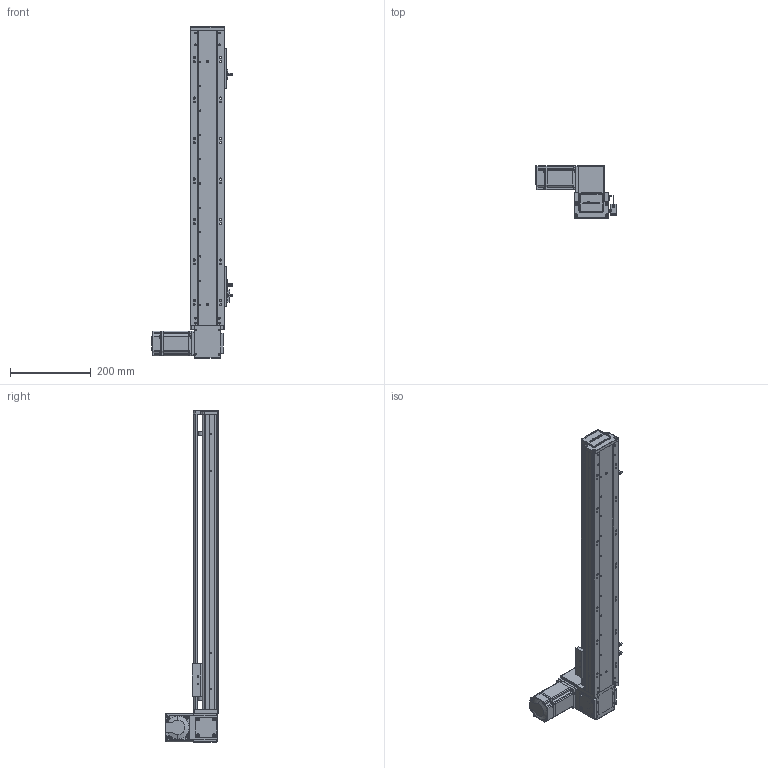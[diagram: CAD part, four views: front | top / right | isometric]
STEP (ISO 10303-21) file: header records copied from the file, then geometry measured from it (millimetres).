
FILE_DESCRIPTION (( 'STEP AP203' ), '1' );
FILE_NAME ('RY80-T-300-UL.SLDASM_550.step', '2021-03-01T02:16:33', ( '盈信电脑' ), ( '东莞市道滘镇水果街19号' ), 'SwSTEP 2.0', 'SolidWorks 2012', '' );
FILE_SCHEMA (( 'CONFIG_CONTROL_DESIGN' ));
Length unit declared in the file: millimetre
Products named in the file (19): RY80-T肮祭謫奻殏俋欶; RY80-T-300-UL.SLDASM_550; RY80-T-M4蹟翐2; RY80-T-上下折同步轮盖板; RY80-T翋肮祭謫裔啣; 1; RY80-T粣創揤踡輸; 滅袉蝶18-10; RY80-T-翋肮祭謫釱; RY80-T萇儂假蚾啣; RY80-T肮祭湍揤輸2; RY80-T肮祭湍揤輸1; 覜茼ん672; RY80俋离覜茼え; 672嫖萇羲壽假蚾釱; RY80-T-300-UL倰第菁釱_550; RY80-T-300-UL倰第奻裔啣_550; RY80-T綴裔啣; RY80-T肮祭謫臏賑輸
Assembly tree (24 placements, depth 2):
  RY80-T-300-UL.SLDASM_550
    RY80-T-300-UL倰第菁釱_550
    RY80-T肮祭謫臏賑輸
    RY80-T-300-UL倰第奻裔啣_550
    RY80-T綴裔啣
    672嫖萇羲壽假蚾釱  x2
    覜茼ん672  x3
    RY80俋离覜茼え
    RY80-T-翋肮祭謫釱
    RY80-T肮祭湍揤輸1
    RY80-T肮祭湍揤輸2
    RY80-T萇儂假蚾啣
    RY80-T粣創揤踡輸  x2
    滅袉蝶18-10  x2
    RY80-T翋肮祭謫裔啣
    1
    RY80-T肮祭謫奻殏俋欶
    RY80-T-M4蹟翐2  x2
    RY80-T-上下折同步轮盖板
Bounding box: 198.7 x 130.5 x 820 mm (x, y, z)
Volume: 1609000.2 mm3; surface area: 656117.3 mm2
Topology: 24 solids, 24 shells, 2495 faces, 6860 edges, 4453 vertices
Faces by surface type: plane 1346, cylinder 944, cone 149, bspline 56
Entity records: 77801 total; most frequent: CARTESIAN_POINT 18858, ORIENTED_EDGE 12104, DIRECTION 11374, EDGE_CURVE 6052, VERTEX_POINT 3974, AXIS2_PLACEMENT_3D 3814, LINE 3746, VECTOR 3746
